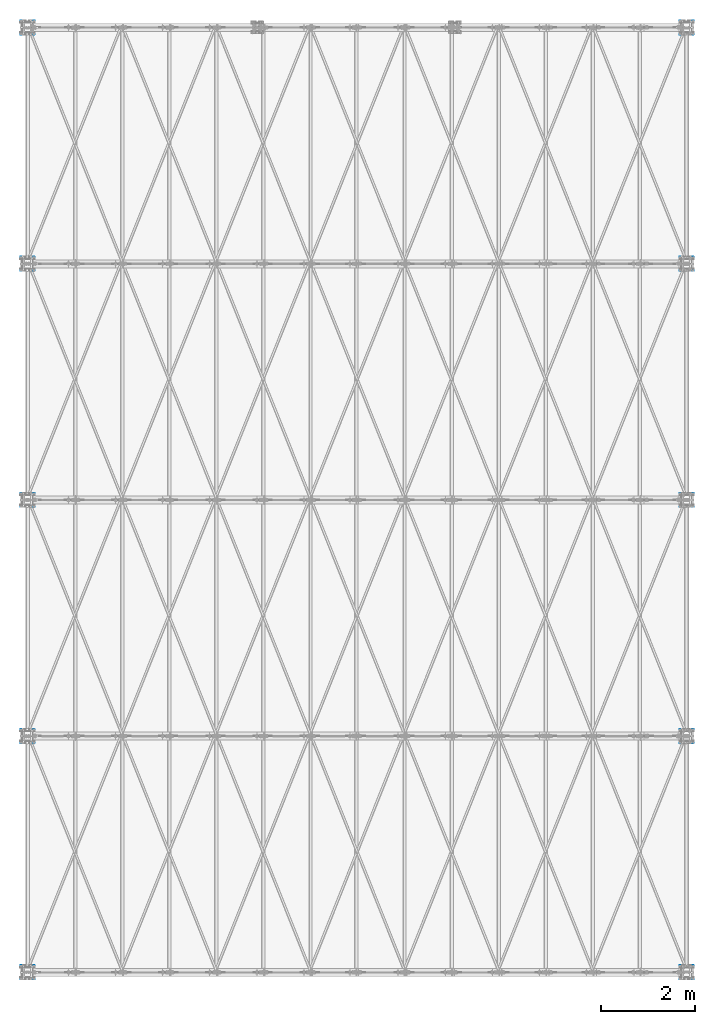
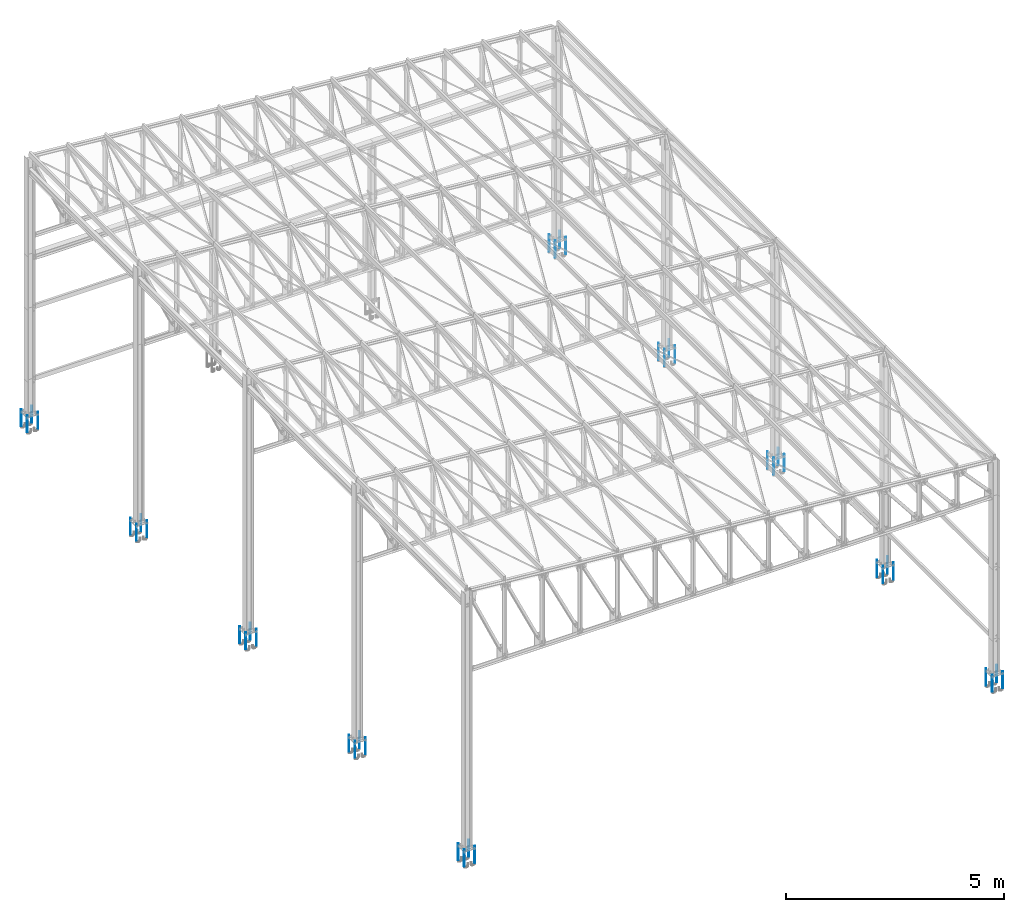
# One storey, part 17 of 251: 1 reinforcing bar.
"""IFC4 building model written with IfcOpenShell, lengths in metres."""

from ifc_helpers import new_model, entity, si_unit, origin_with_axes, place, context, project, spatial, source, transform, mapped, element, save


model = new_model("IFC4")

# Units and contexts
model_context = context("Model", 3, precision=1e-05, world=origin_with_axes())
ifc_project = project(units=[si_unit("LENGTHUNIT", "METRE"), si_unit("AREAUNIT", "SQUARE_METRE"), si_unit("VOLUMEUNIT", "CUBIC_METRE"), si_unit("MASSUNIT", "GRAM", prefix="KILO"), si_unit("TIMEUNIT", "SECOND"), si_unit("PLANEANGLEUNIT", "RADIAN"), si_unit("SOLIDANGLEUNIT", "STERADIAN"), si_unit("THERMODYNAMICTEMPERATUREUNIT", "DEGREE_CELSIUS")], contexts=[model_context])

# Site, building, storey
placement_1 = place(None, origin_with_axes())
site = spatial("IfcSite", under=ifc_project, at=placement_1, Name="Italia", CompositionType="ELEMENT")
building = spatial("IfcBuilding", under=site, at=placement_1, Name="Deposito", CompositionType="ELEMENT")
storey = spatial("IfcBuildingStorey", under=building, at=placement_1, Name="Storey 0", CompositionType="ELEMENT", Elevation=0.0)

# Reinforcing bar
shared_shape = source(origin_with_axes(), model_context, "Body", "AdvancedSweptSolid", [
    entity("IfcSweptDiskSolid", entity("IfcIndexedPolyCurve", entity("IfcCartesianPointList3D", [[20.1395, -0.139, 0.125], [20.1395, -0.139, -0.344]]), [entity("IfcLineIndex", [1, 2])], False), 0.008),
])
placement_2 = place(placement_1, origin_with_axes())
reinforcing_bar_placement = place(placement_2, origin_with_axes())
element("IfcReinforcingBar", 1, at=reinforcing_bar_placement, inside=storey, BarLength=0.469, CrossSectionArea=0.00020106, NominalDiameter=0.016, context=model_context, shape_type="MappedRepresentation", body=[
    mapped(shared_shape, transform((-14.229, 15.0, 0.0), x_axis=(1.0, 0.0, 0.0), y_axis=(0.0, 1.0, 0.0), z_axis=(0.0, 0.0, 1.0), scale=1.0)),
    mapped(shared_shape, transform((-13.95, 15.278, 0.0), x_axis=(1.0, 0.0, 0.0), y_axis=(0.0, 1.0, 0.0), z_axis=(0.0, 0.0, 1.0), scale=1.0)),
    mapped(shared_shape, transform((0.0, 15.0, 0.0), x_axis=(1.0, 0.0, 0.0), y_axis=(0.0, 1.0, 0.0), z_axis=(0.0, 0.0, 1.0), scale=1.0)),
    mapped(shared_shape, transform((-14.229, 15.278, 0.0), x_axis=(1.0, 0.0, 0.0), y_axis=(0.0, 1.0, 0.0), z_axis=(0.0, 0.0, 1.0), scale=1.0)),
    mapped(shared_shape, transform((0.0, 10.0, 0.0), x_axis=(1.0, 0.0, 0.0), y_axis=(0.0, 1.0, 0.0), z_axis=(0.0, 0.0, 1.0), scale=1.0)),
    mapped(shared_shape, transform((0.0, 15.278, 0.0), x_axis=(1.0, 0.0, 0.0), y_axis=(0.0, 1.0, 0.0), z_axis=(0.0, 0.0, 1.0), scale=1.0)),
    mapped(shared_shape, transform((-0.278999, 10.0, 0.0), x_axis=(1.0, 0.0, 0.0), y_axis=(0.0, 1.0, 0.0), z_axis=(0.0, 0.0, 1.0), scale=1.0)),
    mapped(shared_shape, transform((0.0, 10.278, 0.0), x_axis=(1.0, 0.0, 0.0), y_axis=(0.0, 1.0, 0.0), z_axis=(0.0, 0.0, 1.0), scale=1.0)),
    mapped(shared_shape, transform((-13.95, 15.0, 0.0), x_axis=(1.0, 0.0, 0.0), y_axis=(0.0, 1.0, 0.0), z_axis=(0.0, 0.0, 1.0), scale=1.0)),
    mapped(shared_shape, transform((-0.278999, 10.278, 0.0), x_axis=(1.0, 0.0, 0.0), y_axis=(0.0, 1.0, 0.0), z_axis=(0.0, 0.0, 1.0), scale=1.0)),
    mapped(shared_shape, transform((0.0, 20.0, 0.0), x_axis=(1.0, 0.0, 0.0), y_axis=(0.0, 1.0, 0.0), z_axis=(0.0, 0.0, 1.0), scale=1.0)),
    mapped(shared_shape, transform((-14.229, 20.278, 0.0), x_axis=(1.0, 0.0, 0.0), y_axis=(0.0, 1.0, 0.0), z_axis=(0.0, 0.0, 1.0), scale=1.0)),
    mapped(shared_shape, transform((-0.278999, 20.0, 0.0), x_axis=(1.0, 0.0, 0.0), y_axis=(0.0, 1.0, 0.0), z_axis=(0.0, 0.0, 1.0), scale=1.0)),
    mapped(shared_shape, transform((0.0, 20.278, 0.0), x_axis=(1.0, 0.0, 0.0), y_axis=(0.0, 1.0, 0.0), z_axis=(0.0, 0.0, 1.0), scale=1.0)),
    mapped(shared_shape, transform((-0.278999, 15.0, 0.0), x_axis=(1.0, 0.0, 0.0), y_axis=(0.0, 1.0, 0.0), z_axis=(0.0, 0.0, 1.0), scale=1.0)),
    mapped(shared_shape, transform((-0.278999, 20.278, 0.0), x_axis=(1.0, 0.0, 0.0), y_axis=(0.0, 1.0, 0.0), z_axis=(0.0, 0.0, 1.0), scale=1.0)),
    mapped(shared_shape, transform((-13.95, 20.0, 0.0), x_axis=(1.0, 0.0, 0.0), y_axis=(0.0, 1.0, 0.0), z_axis=(0.0, 0.0, 1.0), scale=1.0)),
    mapped(shared_shape, transform((-0.278999, 15.278, 0.0), x_axis=(1.0, 0.0, 0.0), y_axis=(0.0, 1.0, 0.0), z_axis=(0.0, 0.0, 1.0), scale=1.0)),
    mapped(shared_shape, transform((-14.229, 20.0, 0.0), x_axis=(1.0, 0.0, 0.0), y_axis=(0.0, 1.0, 0.0), z_axis=(0.0, 0.0, 1.0), scale=1.0)),
    mapped(shared_shape, transform((-13.95, 20.278, 0.0), x_axis=(1.0, 0.0, 0.0), y_axis=(0.0, 1.0, 0.0), z_axis=(0.0, 0.0, 1.0), scale=1.0)),
    mapped(shared_shape, transform((-14.229, 0.0, 0.0), x_axis=(1.0, 0.0, 0.0), y_axis=(0.0, 1.0, 0.0), z_axis=(0.0, 0.0, 1.0), scale=1.0)),
    mapped(shared_shape, transform((-13.95, 0.278, 0.0), x_axis=(1.0, 0.0, 0.0), y_axis=(0.0, 1.0, 0.0), z_axis=(0.0, 0.0, 1.0), scale=1.0)),
    mapped(shared_shape, transform((-13.95, 5.0, 0.0), x_axis=(1.0, 0.0, 0.0), y_axis=(0.0, 1.0, 0.0), z_axis=(0.0, 0.0, 1.0), scale=1.0)),
    mapped(shared_shape, transform((-14.229, 0.278, 0.0), x_axis=(1.0, 0.0, 0.0), y_axis=(0.0, 1.0, 0.0), z_axis=(0.0, 0.0, 1.0), scale=1.0)),
    mapped(shared_shape, transform((0.0, 0.0, 0.0), x_axis=(1.0, 0.0, 0.0), y_axis=(0.0, 1.0, 0.0), z_axis=(0.0, 0.0, 1.0), scale=1.0)),
    mapped(shared_shape, transform((-13.95, 5.278, 0.0), x_axis=(1.0, 0.0, 0.0), y_axis=(0.0, 1.0, 0.0), z_axis=(0.0, 0.0, 1.0), scale=1.0)),
    mapped(shared_shape, transform((-0.278999, 0.0, 0.0), x_axis=(1.0, 0.0, 0.0), y_axis=(0.0, 1.0, 0.0), z_axis=(0.0, 0.0, 1.0), scale=1.0)),
    mapped(shared_shape, transform((0.0, 0.278, 0.0), x_axis=(1.0, 0.0, 0.0), y_axis=(0.0, 1.0, 0.0), z_axis=(0.0, 0.0, 1.0), scale=1.0)),
    mapped(shared_shape, transform((-13.95, 0.0, 0.0), x_axis=(1.0, 0.0, 0.0), y_axis=(0.0, 1.0, 0.0), z_axis=(0.0, 0.0, 1.0), scale=1.0)),
    mapped(shared_shape, transform((-0.278999, 0.278, 0.0), x_axis=(1.0, 0.0, 0.0), y_axis=(0.0, 1.0, 0.0), z_axis=(0.0, 0.0, 1.0), scale=1.0)),
    mapped(shared_shape, transform((-13.95, 10.0, 0.0), x_axis=(1.0, 0.0, 0.0), y_axis=(0.0, 1.0, 0.0), z_axis=(0.0, 0.0, 1.0), scale=1.0)),
    mapped(shared_shape, transform((-0.278999, 5.278, 0.0), x_axis=(1.0, 0.0, 0.0), y_axis=(0.0, 1.0, 0.0), z_axis=(0.0, 0.0, 1.0), scale=1.0)),
    mapped(shared_shape, transform((-14.229, 10.0, 0.0), x_axis=(1.0, 0.0, 0.0), y_axis=(0.0, 1.0, 0.0), z_axis=(0.0, 0.0, 1.0), scale=1.0)),
    mapped(shared_shape, transform((-13.95, 10.278, 0.0), x_axis=(1.0, 0.0, 0.0), y_axis=(0.0, 1.0, 0.0), z_axis=(0.0, 0.0, 1.0), scale=1.0)),
    mapped(shared_shape, transform((-14.229, 5.0, 0.0), x_axis=(1.0, 0.0, 0.0), y_axis=(0.0, 1.0, 0.0), z_axis=(0.0, 0.0, 1.0), scale=1.0)),
    mapped(shared_shape, transform((-14.229, 10.278, 0.0), x_axis=(1.0, 0.0, 0.0), y_axis=(0.0, 1.0, 0.0), z_axis=(0.0, 0.0, 1.0), scale=1.0)),
    mapped(shared_shape, transform((0.0, 5.0, 0.0), x_axis=(1.0, 0.0, 0.0), y_axis=(0.0, 1.0, 0.0), z_axis=(0.0, 0.0, 1.0), scale=1.0)),
    mapped(shared_shape, transform((-14.229, 5.278, 0.0), x_axis=(1.0, 0.0, 0.0), y_axis=(0.0, 1.0, 0.0), z_axis=(0.0, 0.0, 1.0), scale=1.0)),
    mapped(shared_shape, transform((-0.278999, 5.0, 0.0), x_axis=(1.0, 0.0, 0.0), y_axis=(0.0, 1.0, 0.0), z_axis=(0.0, 0.0, 1.0), scale=1.0)),
    mapped(shared_shape, transform((0.0, 5.278, 0.0), x_axis=(1.0, 0.0, 0.0), y_axis=(0.0, 1.0, 0.0), z_axis=(0.0, 0.0, 1.0), scale=1.0)),
])

save(model, "model.ifc")
